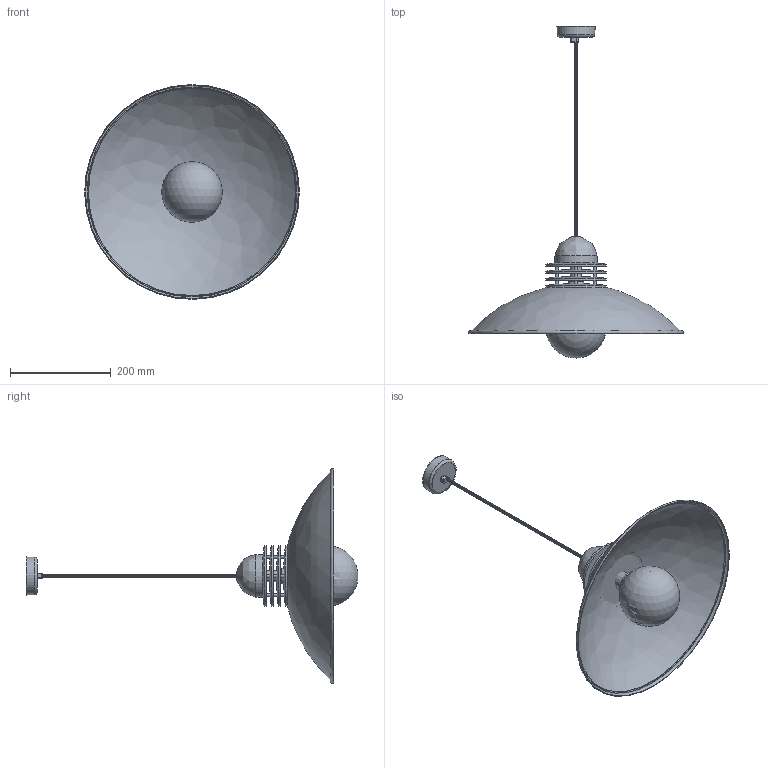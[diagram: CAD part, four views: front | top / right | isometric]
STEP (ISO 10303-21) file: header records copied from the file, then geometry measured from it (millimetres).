
FILE_DESCRIPTION(/* description */ (''),/* implementation_level */ '2;1');
FILE_NAME(/* name */ 'C:\Users\Dominika\Desktop\Modele CZARNY\SOUL 02\LAMPA SOUL 02.stp',/* time_stamp */ '2019-12-05T20:46:17+01:00',/* author */ ('Dominika'),/* organization */ (''),/* preprocessor_version */ 'ST-DEVELOPER v17',/* originating_system */ 'Autodesk Inventor 2019',/* authorisation */ '');
FILE_SCHEMA (('AUTOMOTIVE_DESIGN { 1 0 10303 214 3 1 1 }'));
Length unit declared in the file: millimetre
Products named in the file (15): LAMPA SOUL 02; SOUL 02  klosz I; SOUL 02 klosz II; SOUL 02 klosz III; SOUL 02 łącznik II; SOUL 02 trzymacz kabla; BLUES kabel II; BLUES kabel I; klosz II; B03 mocowanie zarowki; soul 02 łącznik; 1. zespol mocowania do sciany; FUNK mocowanie do sciany; FUNK mocowanie kabla; sruba
Assembly tree (418 placements, depth 3):
  LAMPA SOUL 02
    SOUL 02  klosz I
    SOUL 02 klosz II  x4
    SOUL 02 klosz III
    SOUL 02 łącznik II
    SOUL 02 trzymacz kabla
    BLUES kabel II  x200
    BLUES kabel I  x200
    klosz II
    B03 mocowanie zarowki
    soul 02 łącznik  x4
    1. zespol mocowania do sciany
      FUNK mocowanie do sciany
      FUNK mocowanie kabla
      sruba
Bounding box: 426.03 x 658.47 x 426.03 mm (x, y, z)
Volume: 1629738 mm3; surface area: 564944 mm2
Topology: 417 solids, 417 shells, 1295 faces, 1405 edges, 941 vertices
Faces by surface type: plane 842, cylinder 427, bspline 11, torus 11, cone 3, sphere 1
Full cylindrical faces by diameter (mm): 2.5 x1, 4 x2, 5 x400, 6 x6, 22 x1, 56.973 x1, 73 x1, 75 x1, 83.781 x1, 120 x4
Entity records: 6274 total; most frequent: DIRECTION 1299, CARTESIAN_POINT 1015, AXIS2_PLACEMENT_3D 622, PRODUCT_DEFINITION_SHAPE 433, ITEM_DEFINED_TRANSFORMATION 418, CONTEXT_DEPENDENT_SHAPE_REPRESENTATION 418, NEXT_ASSEMBLY_USAGE_OCCURRENCE 418, ORIENTED_EDGE 346
